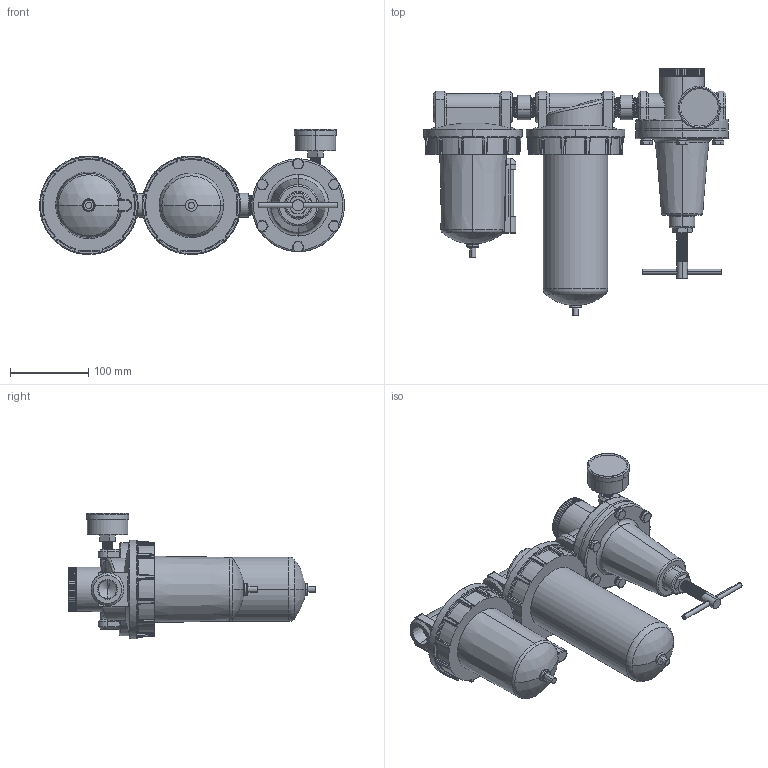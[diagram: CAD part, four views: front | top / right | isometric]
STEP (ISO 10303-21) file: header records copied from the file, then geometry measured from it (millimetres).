
FILE_DESCRIPTION (( 'STEP AP203' ), '1' );
FILE_NAME ('C728#W#-06YB#.STEP', '2016-01-14T17:41:56', ( '' ), ( '' ), 'SwSTEP 2.0', 'SolidWorks 2014', '' );
FILE_SCHEMA (( 'CONFIG_CONTROL_DESIGN' ));
Length unit declared in the file: millimetre
Products named in the file (21): R119-06-1; R119-06-3; R119-06-4; H604D-06-2; F602W-06; H604D-06YB#; R119-06-6; 50-P-AD=1-4PT.SLDPRT; R119-06-2; R119-06-7; ISO 4014 - M8; R119-06-5; 50-P-AD=1-4PT-2; 50-P-AD=1-4PT-1; R119-06-無固定架; L606-W-06-2; L606-W-06-5; H604D-06-1; F602W-06#YB#; C728#W#-06YB#; 3-4-圓
Assembly tree (27 placements, depth 4):
  C728#W#-06YB#
    F602W-06#YB#
      F602W-06
      L606-W-06-2
      L606-W-06-5
    H604D-06YB#
      H604D-06-1
      H604D-06-2
      L606-W-06-5
    3-4-圓  x2
    R119-06-無固定架
      R119-06-1
      R119-06-2
      R119-06-3
      R119-06-4
      R119-06-5
      R119-06-6
      ISO 4014 - M8  x6
      R119-06-7
      50-P-AD=1-4PT.SLDPRT
        50-P-AD=1-4PT-1
        50-P-AD=1-4PT-2
Bounding box: 389.75 x 316 x 160 mm (x, y, z)
Volume: 3640839.5 mm3; surface area: 371792.4 mm2
Topology: 24 solids, 24 shells, 1547 faces, 3750 edges, 2206 vertices
Faces by surface type: plane 452, cylinder 365, cone 348, bspline 229, torus 96, sphere 57
Entity records: 61945 total; most frequent: CARTESIAN_POINT 31245, ORIENTED_EDGE 6400, DIRECTION 5447, EDGE_CURVE 3200, AXIS2_PLACEMENT_3D 2292, VERTEX_POINT 1923, EDGE_LOOP 1377, FACE_OUTER_BOUND 1336
